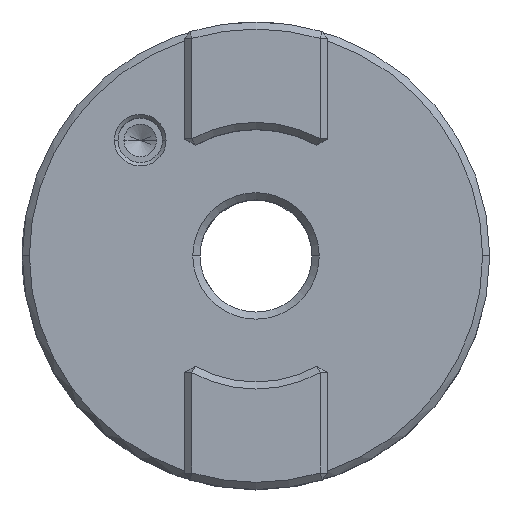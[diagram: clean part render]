
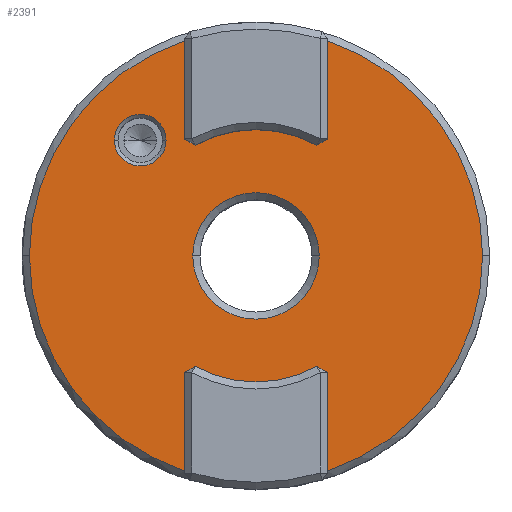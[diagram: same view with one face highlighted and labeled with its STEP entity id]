
A CAD part, top view. The second image highlights one B-rep face of the part: STEP entity #2391.
In plain terms, the highlighted planar face has unit normal (0, 0, 1).
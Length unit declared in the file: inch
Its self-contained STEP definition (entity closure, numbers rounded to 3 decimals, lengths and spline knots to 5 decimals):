
#1143=CARTESIAN_POINT('',(0.,0.,0.59));
#1144=DIRECTION('',(0.,0.,-1.));
#1145=DIRECTION('',(1.,0.,0.));
#1146=AXIS2_PLACEMENT_3D('',#1143,#1144,#1145);
#1152=CARTESIAN_POINT('',(0.,0.,0.59));
#1153=DIRECTION('',(0.,0.,-1.));
#1154=DIRECTION('',(-1.,0.,0.));
#1155=AXIS2_PLACEMENT_3D('',#1152,#1153,#1154);
#1161=DIRECTION('',(-0.861,-0.509,0.));
#1162=VECTOR('',#1161,0.03443);
#1163=CARTESIAN_POINT('',(0.20025,0.3281,0.59));
#1164=LINE('',#1163,#1162);
#1165=DIRECTION('',(0.,-1.,0.));
#1166=VECTOR('',#1165,0.27582);
#1167=CARTESIAN_POINT('',(0.20025,0.60392,0.59));
#1168=LINE('',#1167,#1166);
#1169=CARTESIAN_POINT('',(0.,0.,0.59));
#1170=DIRECTION('',(0.,0.,1.));
#1171=DIRECTION('',(0.315,-0.949,0.));
#1172=AXIS2_PLACEMENT_3D('',#1169,#1170,#1171);
#1174=DIRECTION('',(0.,-1.,0.));
#1175=VECTOR('',#1174,0.27582);
#1176=CARTESIAN_POINT('',(0.20025,-0.3281,0.59));
#1177=LINE('',#1176,#1175);
#1178=DIRECTION('',(0.861,-0.509,0.));
#1179=VECTOR('',#1178,0.03443);
#1180=CARTESIAN_POINT('',(0.17062,-0.31057,0.59));
#1181=LINE('',#1180,#1179);
#1182=CARTESIAN_POINT('',(0.,0.,0.59));
#1183=DIRECTION('',(0.,0.,1.));
#1184=DIRECTION('',(-0.482,-0.876,0.));
#1185=AXIS2_PLACEMENT_3D('',#1182,#1183,#1184);
#1187=DIRECTION('',(0.861,0.509,0.));
#1188=VECTOR('',#1187,0.03443);
#1189=CARTESIAN_POINT('',(-0.20025,-0.3281,0.59));
#1190=LINE('',#1189,#1188);
#1191=DIRECTION('',(0.,1.,0.));
#1192=VECTOR('',#1191,0.27582);
#1193=CARTESIAN_POINT('',(-0.20025,-0.60392,0.59));
#1194=LINE('',#1193,#1192);
#1195=CARTESIAN_POINT('',(0.,0.,0.59));
#1196=DIRECTION('',(0.,0.,1.));
#1197=DIRECTION('',(-1.,0.,0.));
#1198=AXIS2_PLACEMENT_3D('',#1195,#1196,#1197);
#1200=DIRECTION('',(0.,1.,0.));
#1201=VECTOR('',#1200,0.27582);
#1202=CARTESIAN_POINT('',(-0.20025,0.3281,0.59));
#1203=LINE('',#1202,#1201);
#1204=DIRECTION('',(-0.861,0.509,0.));
#1205=VECTOR('',#1204,0.03443);
#1206=CARTESIAN_POINT('',(-0.17062,0.31057,0.59));
#1207=LINE('',#1206,#1205);
#1208=CARTESIAN_POINT('',(0.,0.,0.59));
#1209=DIRECTION('',(0.,0.,1.));
#1210=DIRECTION('',(0.482,0.876,0.));
#1211=AXIS2_PLACEMENT_3D('',#1208,#1209,#1210);
#1213=CARTESIAN_POINT('',(-0.325,0.325,0.59));
#1214=DIRECTION('',(0.,0.,-1.));
#1215=DIRECTION('',(-1.,0.,0.));
#1216=AXIS2_PLACEMENT_3D('',#1213,#1214,#1215);
#1218=CARTESIAN_POINT('',(-0.325,0.325,0.59));
#1219=DIRECTION('',(0.,0.,-1.));
#1220=DIRECTION('',(1.,0.,0.));
#1221=AXIS2_PLACEMENT_3D('',#1218,#1219,#1220);
#1389=CARTESIAN_POINT('',(0.,0.,0.59));
#1390=DIRECTION('',(0.,0.,1.));
#1391=DIRECTION('',(1.,0.,0.));
#1392=AXIS2_PLACEMENT_3D('',#1389,#1390,#1391);
#1399=CARTESIAN_POINT('',(0.,0.,0.59));
#1400=DIRECTION('',(0.,0.,1.));
#1401=DIRECTION('',(-0.315,0.949,0.));
#1402=AXIS2_PLACEMENT_3D('',#1399,#1400,#1401);
#1972=CARTESIAN_POINT('',(0.1775,0.,0.59));
#1973=VERTEX_POINT('',#1972);
#1974=CARTESIAN_POINT('',(-0.1775,0.,0.59));
#1975=VERTEX_POINT('',#1974);
#1976=CARTESIAN_POINT('',(0.20025,0.3281,0.59));
#1977=CARTESIAN_POINT('',(0.17062,0.31057,0.59));
#1978=VERTEX_POINT('',#1976);
#1979=VERTEX_POINT('',#1977);
#1980=CARTESIAN_POINT('',(0.20025,0.60392,0.59));
#1981=VERTEX_POINT('',#1980);
#1982=CARTESIAN_POINT('',(0.63625,0.,0.59));
#1983=VERTEX_POINT('',#1982);
#1984=CARTESIAN_POINT('',(0.20025,-0.60392,0.59));
#1985=VERTEX_POINT('',#1984);
#1986=CARTESIAN_POINT('',(0.20025,-0.3281,0.59));
#1987=VERTEX_POINT('',#1986);
#1988=CARTESIAN_POINT('',(0.17062,-0.31057,0.59));
#1989=VERTEX_POINT('',#1988);
#1990=CARTESIAN_POINT('',(-0.17062,-0.31057,0.59));
#1991=VERTEX_POINT('',#1990);
#1992=CARTESIAN_POINT('',(-0.20025,-0.3281,0.59));
#1993=VERTEX_POINT('',#1992);
#1994=CARTESIAN_POINT('',(-0.20025,-0.60392,0.59));
#1995=VERTEX_POINT('',#1994);
#1996=CARTESIAN_POINT('',(-0.63625,0.,0.59));
#1997=VERTEX_POINT('',#1996);
#1998=CARTESIAN_POINT('',(-0.20025,0.60392,0.59));
#1999=VERTEX_POINT('',#1998);
#2000=CARTESIAN_POINT('',(-0.20025,0.3281,0.59));
#2001=VERTEX_POINT('',#2000);
#2002=CARTESIAN_POINT('',(-0.17062,0.31057,0.59));
#2003=VERTEX_POINT('',#2002);
#2004=CARTESIAN_POINT('',(-0.3975,0.325,0.59));
#2005=CARTESIAN_POINT('',(-0.2525,0.325,0.59));
#2006=VERTEX_POINT('',#2004);
#2007=VERTEX_POINT('',#2005);
#2346=CARTESIAN_POINT('',(0.,0.,0.59));
#2347=DIRECTION('',(0.,0.,1.));
#2348=DIRECTION('',(1.,0.,0.));
#2349=AXIS2_PLACEMENT_3D('',#2346,#2347,#2348);
#2350=PLANE('',#2349);
#2352=ORIENTED_EDGE('',*,*,#2351,.F.);
#2354=ORIENTED_EDGE('',*,*,#2353,.F.);
#2356=ORIENTED_EDGE('',*,*,#2355,.F.);
#2358=ORIENTED_EDGE('',*,*,#2357,.F.);
#2360=ORIENTED_EDGE('',*,*,#2359,.F.);
#2362=ORIENTED_EDGE('',*,*,#2361,.F.);
#2364=ORIENTED_EDGE('',*,*,#2363,.F.);
#2366=ORIENTED_EDGE('',*,*,#2365,.F.);
#2368=ORIENTED_EDGE('',*,*,#2367,.F.);
#2370=ORIENTED_EDGE('',*,*,#2369,.F.);
#2372=ORIENTED_EDGE('',*,*,#2371,.F.);
#2374=ORIENTED_EDGE('',*,*,#2373,.F.);
#2376=ORIENTED_EDGE('',*,*,#2375,.F.);
#2378=ORIENTED_EDGE('',*,*,#2377,.F.);
#2379=EDGE_LOOP('',(#2352,#2354,#2356,#2358,#2360,#2362,#2364,#2366,#2368,#2370,
#2372,#2374,#2376,#2378));
#2380=FACE_OUTER_BOUND('',#2379,.F.);
#2382=ORIENTED_EDGE('',*,*,#2381,.F.);
#2384=ORIENTED_EDGE('',*,*,#2383,.F.);
#2385=EDGE_LOOP('',(#2382,#2384));
#2386=FACE_BOUND('',#2385,.F.);
#2387=ORIENTED_EDGE('',*,*,#2331,.F.);
#2388=ORIENTED_EDGE('',*,*,#2311,.F.);
#2389=EDGE_LOOP('',(#2387,#2388));
#2390=FACE_BOUND('',#2389,.F.);
#1147=CIRCLE('',#1146,0.1775);
#1156=CIRCLE('',#1155,0.1775);
#1173=CIRCLE('',#1172,0.63625);
#1186=CIRCLE('',#1185,0.35435);
#1199=CIRCLE('',#1198,0.63625);
#1212=CIRCLE('',#1211,0.35435);
#1217=CIRCLE('',#1216,0.0725);
#1222=CIRCLE('',#1221,0.0725);
#1393=CIRCLE('',#1392,0.63625);
#1403=CIRCLE('',#1402,0.63625);
#2311=EDGE_CURVE('',#1973,#1975,#1147,.T.);
#2331=EDGE_CURVE('',#1975,#1973,#1156,.T.);
#2351=EDGE_CURVE('',#1978,#1979,#1164,.T.);
#2353=EDGE_CURVE('',#1981,#1978,#1168,.T.);
#2355=EDGE_CURVE('',#1983,#1981,#1393,.T.);
#2357=EDGE_CURVE('',#1985,#1983,#1173,.T.);
#2359=EDGE_CURVE('',#1987,#1985,#1177,.T.);
#2361=EDGE_CURVE('',#1989,#1987,#1181,.T.);
#2363=EDGE_CURVE('',#1991,#1989,#1186,.T.);
#2365=EDGE_CURVE('',#1993,#1991,#1190,.T.);
#2367=EDGE_CURVE('',#1995,#1993,#1194,.T.);
#2369=EDGE_CURVE('',#1997,#1995,#1199,.T.);
#2371=EDGE_CURVE('',#1999,#1997,#1403,.T.);
#2373=EDGE_CURVE('',#2001,#1999,#1203,.T.);
#2375=EDGE_CURVE('',#2003,#2001,#1207,.T.);
#2377=EDGE_CURVE('',#1979,#2003,#1212,.T.);
#2381=EDGE_CURVE('',#2006,#2007,#1217,.T.);
#2383=EDGE_CURVE('',#2007,#2006,#1222,.T.);
#2391=ADVANCED_FACE('',(#2380,#2386,#2390),#2350,.T.);
